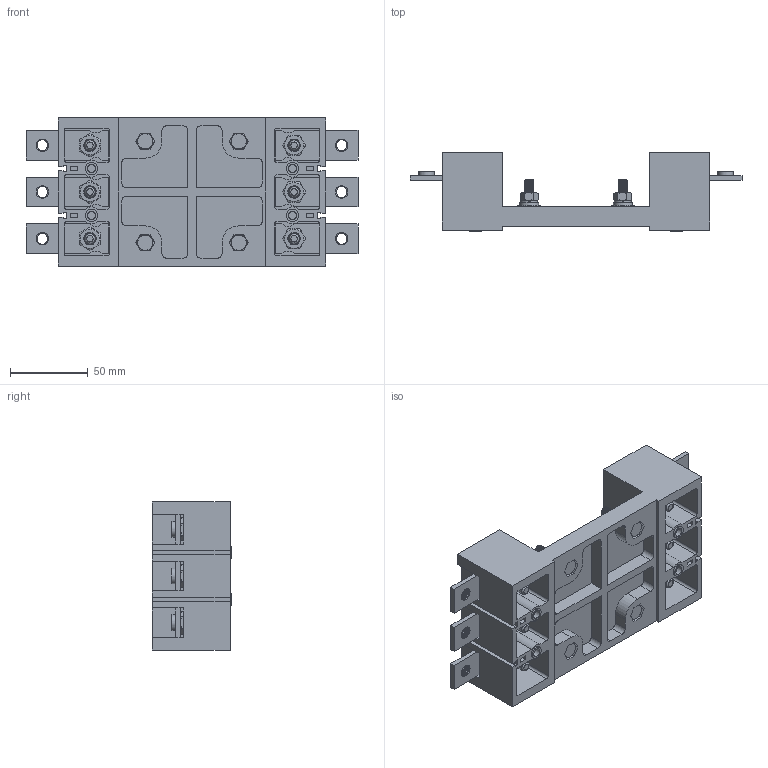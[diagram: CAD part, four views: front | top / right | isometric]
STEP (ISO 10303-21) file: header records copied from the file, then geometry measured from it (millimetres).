
FILE_DESCRIPTION(/* description */ (''),/* implementation_level */ '2;1');
FILE_NAME(/* name */ '_model1.stp',/* time_stamp */ '2024-01-05T16:39:38+08:00',/* author */ (''),/* organization */ (''),/* preprocessor_version */ 'ST-DEVELOPER v16',/* originating_system */ 'SIEMENS PLM Software NX 10.0',/* authorisation */ '');
FILE_SCHEMA (('AUTOMOTIVE_DESIGN { 1 0 10303 214 3 1 1 1 }'));
Length unit declared in the file: millimetre
Products named in the file (1): midi1E24FC3Arhnm
Bounding box: 213 x 51 x 95 mm (x, y, z)
Volume: 315384.5 mm3; surface area: 124189.4 mm2
Topology: 1 solids, 93 shells, 1678 faces, 4057 edges, 2497 vertices
Faces by surface type: cone 786, plane 530, cylinder 356, torus 6
Full cylindrical faces by diameter (mm): 5 x4, 5.5 x4, 6 x124, 6.18 x4, 6.2 x6, 6.917 x18, 7 x4, 7.7 x6, 8 x64, 8.2 x6, 8.4 x6, 10 x6, 12 x4, 15 x4
Entity records: 52400 total; most frequent: CARTESIAN_POINT 7283, DIRECTION 7194, ORIENTED_EDGE 5320, AXIS2_PLACEMENT_3D 3047, EDGE_LOOP 2842, EDGE_CURVE 2660, FACE_BOUND 2294, VERTEX_POINT 2128
